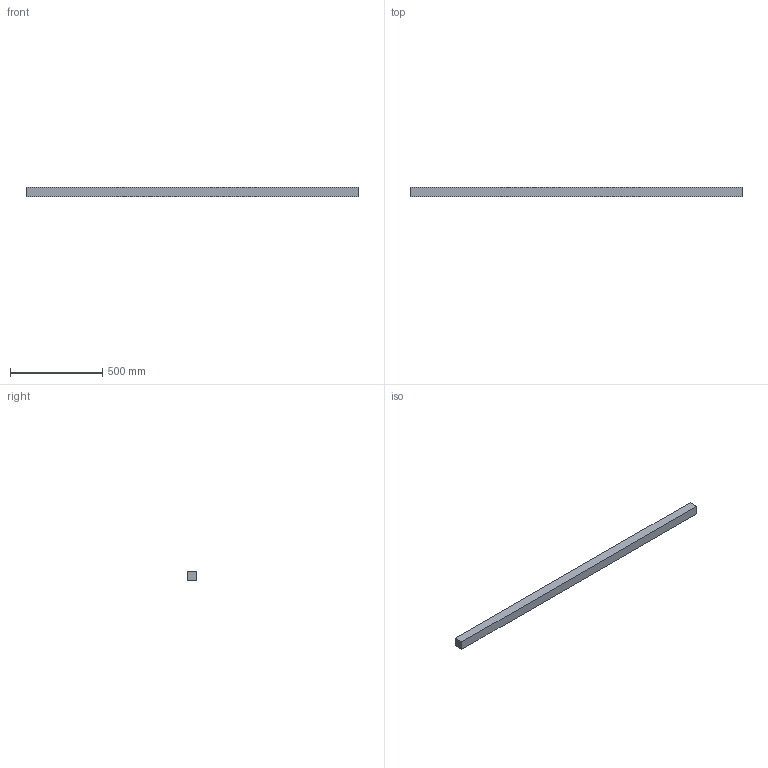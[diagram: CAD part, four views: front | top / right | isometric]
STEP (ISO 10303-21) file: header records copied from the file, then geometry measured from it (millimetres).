
FILE_DESCRIPTION(('Open CASCADE Model'),'2;1');
FILE_NAME('Open CASCADE Shape Model','2026-03-30T20:16:05',('Author'),( 'Open CASCADE'),'Open CASCADE STEP processor 7.8','Open CASCADE 7.8' ,'Unknown');
FILE_SCHEMA(('AUTOMOTIVE_DESIGN { 1 0 10303 214 1 1 1 1 }'));
Length unit declared in the file: millimetre
Products named in the file (1): Open CASCADE STEP translator 7.8 7
Bounding box: 1800 x 50 x 50 mm (x, y, z)
Volume: 4500000 mm3; surface area: 365000 mm2
Topology: 1 solids, 1 shells, 6 faces, 12 edges, 8 vertices
Faces by surface type: plane 6
Entity records: 322 total; most frequent: CARTESIAN_POINT 51, DIRECTION 50, LINE 36, VECTOR 36, ORIENTED_EDGE 24, PCURVE 24, DEFINITIONAL_REPRESENTATION 24, EDGE_CURVE 12
